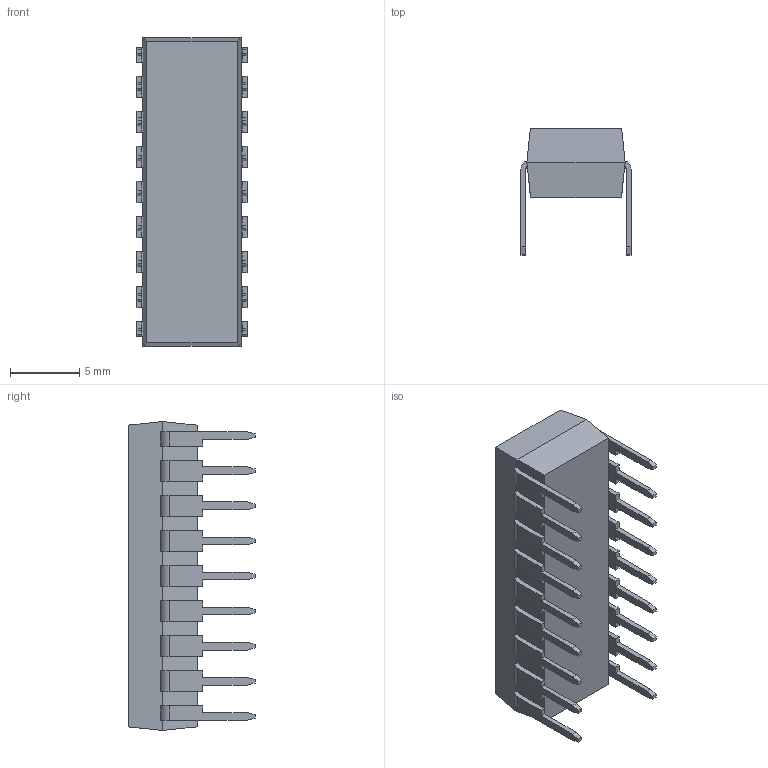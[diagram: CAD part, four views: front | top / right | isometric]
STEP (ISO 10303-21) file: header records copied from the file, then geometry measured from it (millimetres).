
FILE_DESCRIPTION (( 'STEP AP214' ), '1' );
FILE_NAME ('DIP18 (MS-001.BC).STEP', '2012-10-16T12:58:46', ( 'Tester2' ), ( '' ), 'SwSTEP 2.0', 'SolidWorks 2012', '' );
FILE_SCHEMA (( 'AUTOMOTIVE_DESIGN' ));
Length unit declared in the file: millimetre
Products named in the file (1): DIP18 (MS-001.BC)
Bounding box: 7.98 x 9.14 x 22.35 mm (x, y, z)
Volume: 788.1 mm3; surface area: 885.1 mm2
Topology: 1 solids, 1 shells, 241 faces, 713 edges, 474 vertices
Faces by surface type: plane 203, cylinder 38
Entity records: 8150 total; most frequent: CARTESIAN_POINT 1429, ORIENTED_EDGE 1426, DIRECTION 1273, EDGE_CURVE 713, VECTOR 637, LINE 637, VERTEX_POINT 474, AXIS2_PLACEMENT_3D 318
